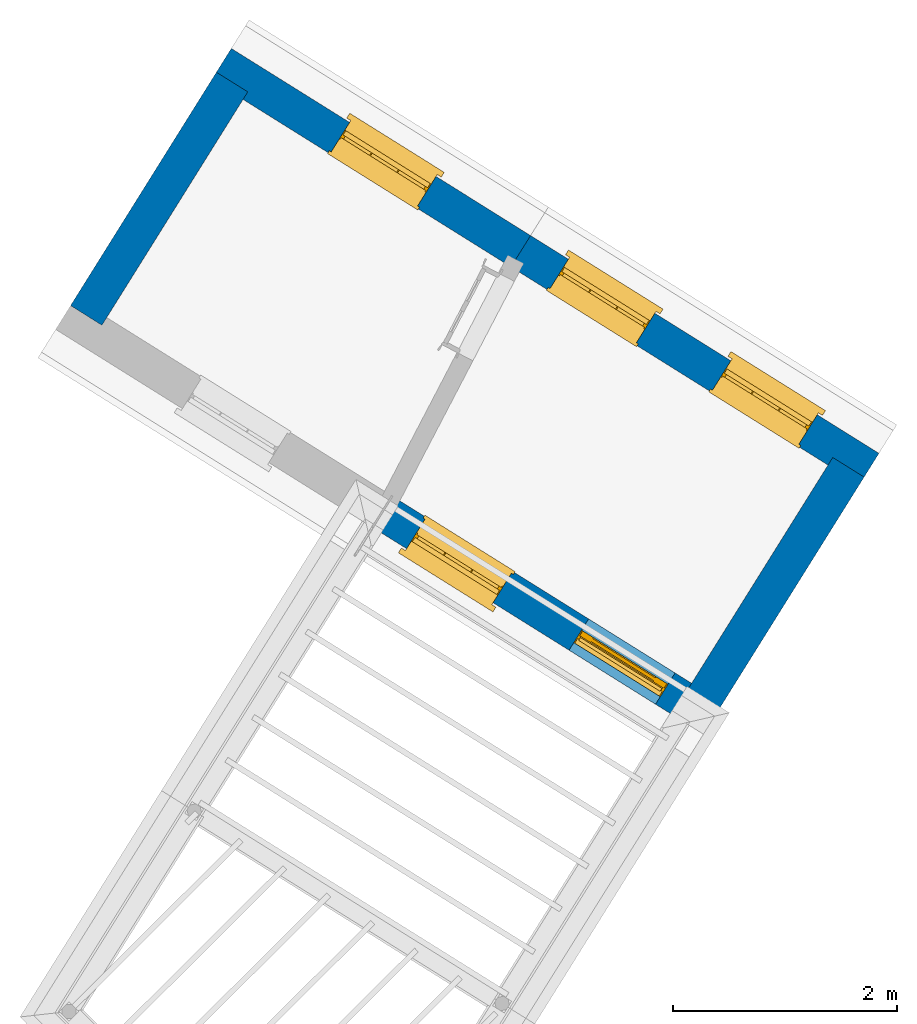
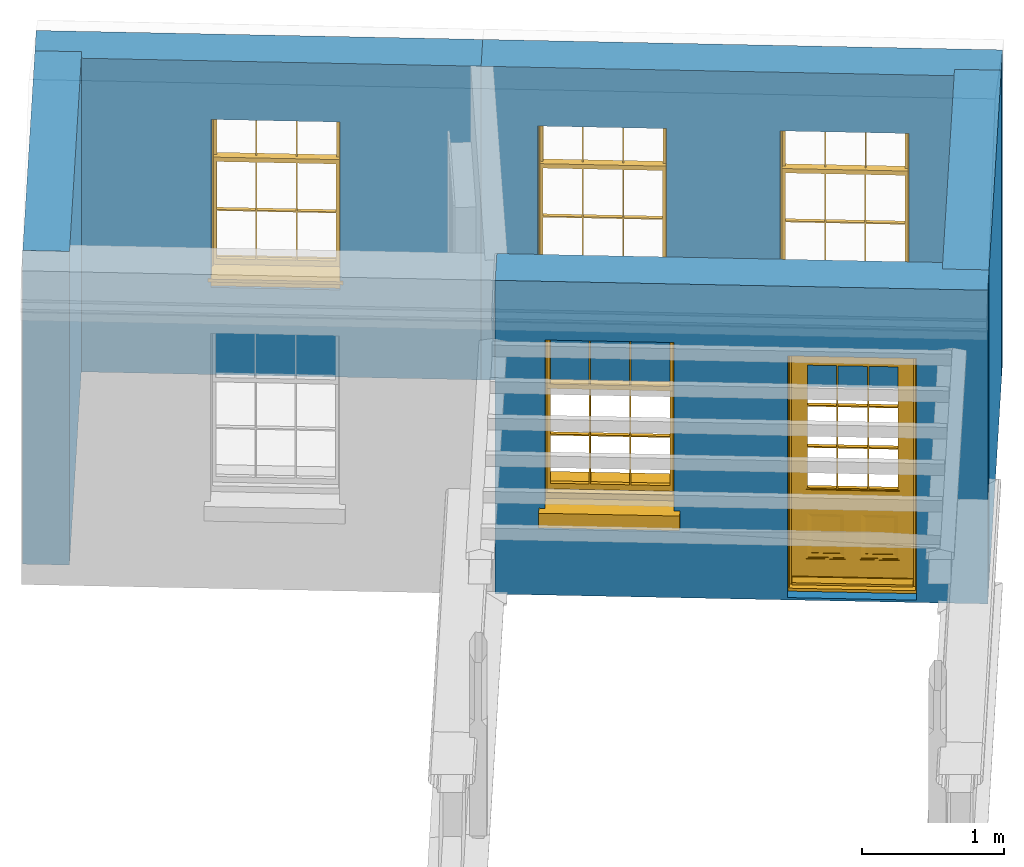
# One storey, part 4 of 5: 5 walls, 4 windows, 1 door, 5 openings.
"""IFC4 building model written with IfcOpenShell, lengths in metres."""

from ifc_helpers import new_model, si_unit, frame, origin, origin_with_axes, place, context, subcontext, project, spatial, polyline, outline, extrude, faceted_brep, source, transform, mapped, material, layer, layer_set, layer_usage, type_object, type_shapes, element, fill, save


model = new_model("IFC4")

# Units and contexts
model_context = context("Model", 3, world=origin_with_axes())
body_context = subcontext(model_context, "Body", "Model", "MODEL_VIEW")
ifc_project = project(units=[si_unit("PLANEANGLEUNIT", "RADIAN"), si_unit("MASSUNIT", "GRAM", prefix="KILO"), si_unit("FORCEUNIT", "NEWTON", prefix="KILO"), si_unit("LENGTHUNIT", "METRE"), si_unit("AREAUNIT", "SQUARE_METRE"), si_unit("VOLUMEUNIT", "CUBIC_METRE")], contexts=[model_context, model_context])

# Sites, building, storey
site_1_placement = place(None, origin_with_axes())
site_1 = spatial("IfcSite", under=ifc_project, at=site_1_placement, Name="Tamar")
site_2_placement = place(site_1_placement, origin_with_axes())
site_2 = spatial("IfcSite", under=site_1, at=site_2_placement, Name="Site plot-3", CompositionType="ELEMENT")
building_placement = place(None, origin_with_axes())
building = spatial("IfcBuilding", under=site_2, at=building_placement, Name="Building plot-3", CompositionType="ELEMENT")
storey_placement = place(None, frame((0.0, 0.0, 30.5), z_axis=(0.0, 0.0, 1.0), x_axis=(1.0, 0.0, 0.0)))
storey = spatial("IfcBuildingStorey", under=building, at=storey_placement, Name="plot-3 2", CompositionType="ELEMENT", Elevation=30.5)

# Wall, openings, door, window
ifc_material_1 = material(Name="Masonry")
ifc_layer_1 = layer(ifc_material_1, 0.33, ventilated=False)
ifc_layer_set_1 = layer_set([ifc_layer_1], Name="exterior_0.08_0.25")
ifc_layer_usage_1 = layer_usage(ifc_layer_set_1, "AXIS2", "POSITIVE", -0.25)
wall_type_1 = type_object("IfcWallType", Name="exterior_0.08_0.25", PredefinedType="SOLIDWALL", material=ifc_layer_set_1)
wall_1_placement = place(storey_placement, frame((216.299124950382, 286.059601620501, 0.0), z_axis=(0.0, 0.0, 1.0), x_axis=(0.847981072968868, -0.530026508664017, 0.0)))
wall_1 = element("IfcWall", 1, at=wall_1_placement, inside=storey, type_object=wall_type_1, material=ifc_layer_usage_1, Name="exterior", context=body_context, shape_type="SweptSolid", body=[
    extrude(outline(polyline([(-4.65550663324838e-12, 0.0799999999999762), (1.46027175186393e-11, -0.249999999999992), (3.47554439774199, -0.249999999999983), (3.47554439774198, 0.0800000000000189), (-4.65550663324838e-12, 0.0799999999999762)])), origin_with_axes(), (0.0, 0.0, 1.0), 2.7),
])
opening_1_placement = place(wall_1_placement, frame((0.351386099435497, 0.0, 0.75)))
opening_1 = element("IfcOpeningElement", 2, at=opening_1_placement, cuts=wall_1, Name="My Opening", ObjectType="Opening", context=body_context, shape_type="SweptSolid", body=[
    extrude(outline(polyline([(0.0, -0.269999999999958), (0.91, -0.269999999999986), (0.90999999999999, 1.09999999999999), (-9.82547376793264e-15, 1.10000000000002), (0.0, -0.269999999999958)])), origin_with_axes(), (0.0, 0.0, 1.0), 1.445),
])
opening_2_placement = place(wall_1_placement, frame((2.06138609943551, 0.0, 0.0199999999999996)))
opening_2 = element("IfcOpeningElement", 3, at=opening_2_placement, cuts=wall_1, Name="My Opening", ObjectType="Opening", context=body_context, shape_type="SweptSolid", body=[
    extrude(outline(polyline([(0.0, -0.269999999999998), (0.909999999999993, -0.269999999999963), (0.909999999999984, 1.10000000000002), (-9.76996261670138e-15, 1.09999999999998), (0.0, -0.269999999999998)])), origin_with_axes(), (0.0, 0.0, 1.0), 2.08),
])
door_type = type_object("IfcDoorType", Name="door_panelled", OperationType="SINGLE_SWING_LEFT", PredefinedType="NOTDEFINED")
shared_shape_1 = source(origin(), body_context, "Body", "Brep", [
    faceted_brep([(0.545, 0.195, 0.265), (0.745, 0.195, 0.265), (0.745, 0.2, 0.265), (0.545, 0.2, 0.265), (0.745, 0.2, 0.58), (0.545, 0.2, 0.58), (0.545, 0.195, 0.58), (0.515, 0.19, 0.235), (0.775, 0.19, 0.235), (0.745, 0.195, 0.58), (0.515, 0.19, 0.61), (0.515, 0.185, 0.235), (0.775, 0.185, 0.235), (0.775, 0.19, 0.61), (0.515, 0.185, 0.61), (0.785, 0.185, 0.225), (0.505, 0.185, 0.225), (0.775, 0.185, 0.61), (0.505, 0.185, 0.62), (0.785, 0.185, 0.62), (0.505, 0.18, 0.225), (0.785, 0.18, 0.225), (0.505, 0.18, 0.62), (0.785, 0.18, 0.62), (0.883, 0.18, 0.075), (0.898, 0.18, 0.075), (0.405, 0.18, 0.62), (0.405, 0.18, 0.225), (0.027, 0.18, 0.075), (0.785, 0.18, 0.82), (0.125, 0.18, 0.82), (0.405, 0.185, 0.62), (0.405, 0.185, 0.225), (0.898, 0.18, 2.068), (0.027, 0.17, 0.075), (0.883, 0.17, 0.075), (0.125, 0.18, 0.225), (0.012, 0.18, 0.075), (0.785, 0.19, 0.82), (0.125, 0.19, 0.82), (0.125, 0.18, 0.62), (0.125, 0.185, 0.62), (0.395, 0.185, 0.61), (0.395, 0.185, 0.235), (0.125, 0.185, 0.225), (0.785, 0.18, 1.895), (0.027, 0.14, 0.045), (0.883, 0.14, 0.045), (0.558333, 0.19, 0.83), (0.351667, 0.19, 0.83), (0.125, 0.18, 1.895), (0.125, 0.19, 1.895), (0.785, 0.19, 1.895), (0.012, 0.18, 2.068), (0.135, 0.185, 0.61), (0.395, 0.19, 0.61), (0.395, 0.19, 0.235), (0.135, 0.185, 0.235), (0.027, 0.14, 0.027), (0.883, 0.14, 0.027), (0.568333, 0.19, 0.83), (0.558333, 0.22, 0.83), (0.351667, 0.22, 0.83), (0.341667, 0.19, 0.83), (0.135, 0.19, 1.185), (0.135, 0.19, 1.53), (0.775, 0.19, 1.53), (0.775, 0.19, 1.185), (0.135, 0.19, 0.61), (0.365, 0.195, 0.58), (0.365, 0.195, 0.265), (0.135, 0.19, 0.235), (0.568333, 0.19, 1.175), (0.558333, 0.19, 1.175), (0.775, 0.19, 0.83), (0.558333, 0.22, 1.175), (0.785, 0.22, 0.82), (0.125, 0.22, 0.82), (0.351667, 0.22, 1.175), (0.351667, 0.19, 1.175), (0.341667, 0.19, 1.175), (0.135, 0.19, 0.83), (0.135, 0.19, 1.175), (0.135, 0.22, 1.185), (0.135, 0.22, 1.53), (0.135, 0.19, 1.54), (0.351667, 0.19, 1.885), (0.558333, 0.19, 1.885), (0.775, 0.22, 1.53), (0.775, 0.22, 1.185), (0.775, 0.19, 1.175), (0.775, 0.19, 1.54), (0.165, 0.195, 0.58), (0.365, 0.2, 0.58), (0.365, 0.2, 0.265), (0.165, 0.195, 0.265), (0.568333, 0.22, 0.83), (0.568333, 0.22, 1.175), (0.568333, 0.19, 1.185), (0.558333, 0.19, 1.185), (0.775, 0.22, 0.83), (0.785, 0.23, 0.82), (0.125, 0.23, 0.82), (0.341667, 0.22, 0.83), (0.341667, 0.22, 1.175), (0.351667, 0.19, 1.185), (0.341667, 0.19, 1.185), (0.135, 0.22, 0.83), (0.341667, 0.22, 1.185), (0.125, 0.22, 1.895), (0.341667, 0.22, 1.53), (0.341667, 0.19, 1.53), (0.135, 0.19, 1.885), (0.341667, 0.19, 1.54), (0.341667, 0.19, 1.885), (0.558333, 0.22, 1.885), (0.351667, 0.22, 1.885), (0.568333, 0.19, 1.885), (0.785, 0.22, 1.895), (0.568333, 0.22, 1.185), (0.568333, 0.19, 1.53), (0.568333, 0.22, 1.53), (0.568333, 0.19, 1.54), (0.775, 0.19, 1.885), (0.165, 0.2, 0.58), (0.165, 0.2, 0.265), (0.775, 0.22, 1.175), (0.558333, 0.19, 1.53), (0.351667, 0.22, 1.185), (0.558333, 0.22, 1.185), (0.505, 0.23, 0.62), (0.405, 0.23, 0.62), (0.125, 0.23, 1.895), (0.785, 0.23, 1.895), (0.351667, 0.19, 1.53), (0.135, 0.22, 1.175), (0.135, 0.22, 1.54), (0.341667, 0.22, 1.54), (0.135, 0.22, 1.885), (0.351667, 0.19, 1.54), (0.558333, 0.22, 1.54), (0.558333, 0.19, 1.54), (0.351667, 0.22, 1.54), (0.775, 0.22, 1.54), (0.568333, 0.22, 1.54), (0.775, 0.22, 1.885), (0.558333, 0.22, 1.53), (0.405, 0.23, 0.225), (0.505, 0.23, 0.225), (0.125, 0.23, 0.62), (0.785, 0.23, 0.62), (0.012, 0.23, 2.068), (0.898, 0.23, 2.068), (0.351667, 0.22, 1.53), (0.341667, 0.22, 1.885), (0.568333, 0.22, 1.885), (0.405, 0.225, 0.225), (0.405, 0.225, 0.62), (0.505, 0.225, 0.62), (0.505, 0.225, 0.225), (0.898, 0.23, 0.027), (0.012, 0.23, 0.027), (0.125, 0.225, 0.62), (0.785, 0.225, 0.62), (0.395, 0.225, 0.235), (0.395, 0.225, 0.61), (0.125, 0.23, 0.225), (0.125, 0.225, 0.225), (0.515, 0.225, 0.61), (0.515, 0.225, 0.235), (0.785, 0.23, 0.225), (0.785, 0.225, 0.225), (0.135, 0.225, 0.61), (0.775, 0.225, 0.61), (0.135, 0.225, 0.235), (0.395, 0.22, 0.235), (0.395, 0.22, 0.61), (0.515, 0.22, 0.61), (0.515, 0.22, 0.235), (0.775, 0.225, 0.235), (0.135, 0.22, 0.61), (0.775, 0.22, 0.61), (0.135, 0.22, 0.235), (0.365, 0.215, 0.265), (0.365, 0.215, 0.58), (0.545, 0.215, 0.58), (0.545, 0.215, 0.265), (0.775, 0.22, 0.235), (0.165, 0.215, 0.58), (0.745, 0.215, 0.58), (0.165, 0.215, 0.265), (0.365, 0.21, 0.58), (0.365, 0.21, 0.265), (0.545, 0.21, 0.58), (0.545, 0.21, 0.265), (0.745, 0.215, 0.265), (0.165, 0.21, 0.58), (0.745, 0.21, 0.58), (0.165, 0.21, 0.265), (0.745, 0.21, 0.265), (0.885, 0.178, 0.025), (0.025, 0.178, 0.025), (0.025, 0.15, 0.025), (0.885, 0.15, 0.025), (0.9, 0.23, 0.025), (0.01, 0.23, 0.025), (0.9, 0.178, 0.025), (0.91, 0.23, 0.0), (0.0, 0.23, 0.0), (0.01, 0.178, 0.025), (0.9, 0.178, 2.07), (0.9, 0.23, 2.07), (0.885, 0.178, 2.055), (0.91, 0.23, 2.08), (0.01, 0.23, 2.07), (0.0, 0.23, 2.08), (0.01, 0.178, 2.07), (0.025, 0.178, 2.055), (0.0, 0.1, 2.08), (0.91, 0.1, 2.08), (0.01, 0.1, 2.07), (0.9, 0.1, 2.07), (0.01, 0.15, 2.07), (0.9, 0.15, 2.07), (0.0, 0.1, 0.0), (0.91, 0.1, 0.0), (0.01, 0.1, 0.025), (0.9, 0.1, 0.025), (0.01, 0.15, 0.025), (0.025, 0.15, 2.055), (0.9, 0.15, 0.025), (0.885, 0.15, 2.055), (0.898, 0.18, 0.027), (0.012, 0.18, 0.027), (0.883, 0.18, 0.027), (0.027, 0.18, 0.027)], [[[0, 1, 2, 3]], [[2, 4, 5, 3]], [[0, 3, 5, 6]], [[1, 0, 7, 8]], [[9, 4, 2, 1]], [[9, 6, 5, 4]], [[0, 6, 10, 7]], [[8, 7, 11, 12]], [[8, 13, 9, 1]], [[13, 10, 6, 9]], [[7, 10, 14, 11]], [[15, 12, 11, 16]], [[12, 17, 13, 8]], [[17, 14, 10, 13]], [[18, 16, 11, 14]], [[15, 19, 17, 12]], [[15, 16, 20, 21]], [[14, 17, 19, 18]], [[16, 18, 22, 20]], [[21, 23, 19, 15]], [[24, 25, 21, 20]], [[23, 22, 18, 19]], [[20, 22, 26, 27]], [[23, 21, 25]], [[28, 24, 20, 27]], [[22, 23, 29]], [[29, 30, 26, 22]], [[27, 26, 31, 32]], [[23, 25, 33, 29]], [[34, 35, 24, 28]], [[28, 27, 36, 37]], [[38, 39, 30, 29]], [[26, 30, 40]], [[26, 40, 41, 31]], [[42, 43, 32, 31]], [[32, 44, 36, 27]], [[33, 45, 29]], [[46, 47, 35, 34]], [[36, 40, 37]], [[39, 38, 48, 49]], [[50, 30, 39, 51]], [[29, 45, 52, 38]], [[53, 37, 40, 30]], [[44, 41, 40, 36]], [[31, 41, 54, 42]], [[43, 42, 55, 56]], [[57, 44, 32, 43]], [[50, 45, 33, 53]], [[47, 46, 58, 59]], [[60, 48, 38]], [[49, 48, 61, 62]], [[49, 63, 39]], [[50, 53, 30]], [[51, 39, 64, 65]], [[45, 50, 51, 52]], [[66, 67, 38, 52]], [[57, 54, 41, 44]], [[42, 54, 68, 55]], [[56, 55, 69, 70]], [[56, 71, 57, 43]], [[60, 72, 73, 48]], [[60, 38, 74]], [[48, 73, 75, 61]], [[76, 77, 62, 61]], [[62, 78, 79, 49]], [[49, 79, 80, 63]], [[63, 81, 39]], [[82, 64, 39]], [[65, 64, 83, 84]], [[85, 51, 65]], [[52, 51, 86, 87]], [[88, 89, 67, 66]], [[90, 38, 67]], [[91, 66, 52]], [[71, 68, 54, 57]], [[55, 68, 92, 69]], [[69, 93, 94, 70]], [[70, 95, 71, 56]], [[96, 97, 72, 60]], [[73, 72, 98, 99]], [[74, 38, 90]], [[100, 96, 60, 74]], [[75, 73, 79, 78]], [[61, 75, 97, 96]], [[101, 102, 77, 76]], [[77, 103, 62]], [[96, 76, 61]], [[103, 104, 78, 62]], [[80, 79, 105, 106]], [[63, 80, 104, 103]], [[81, 63, 103, 107]], [[81, 82, 39]], [[106, 64, 82, 80]], [[106, 108, 83, 64]], [[84, 83, 77, 109]], [[110, 111, 65, 84]], [[112, 51, 85]], [[113, 85, 65, 111]], [[114, 86, 51]], [[115, 87, 86, 116]], [[117, 52, 87]], [[118, 76, 89, 88]], [[119, 98, 67, 89]], [[120, 121, 88, 66]], [[67, 98, 72, 90]], [[91, 122, 120, 66]], [[91, 52, 123]], [[95, 92, 68, 71]], [[69, 92, 124, 93]], [[94, 93, 124, 125]], [[94, 125, 95, 70]], [[72, 97, 126, 90]], [[127, 99, 98, 120]], [[99, 105, 79, 73]], [[74, 90, 126, 100]], [[96, 100, 76]], [[128, 129, 75, 78]], [[97, 75, 129, 119]], [[130, 131, 102, 101]], [[109, 77, 102, 132]], [[133, 101, 76, 118]], [[77, 107, 103]], [[78, 104, 108, 128]], [[111, 106, 105, 134]], [[104, 80, 82, 135]], [[107, 135, 82, 81]], [[110, 108, 106, 111]], [[104, 135, 83, 108]], [[83, 135, 77]], [[136, 84, 109]], [[110, 84, 136, 137]], [[114, 51, 112]], [[85, 136, 138, 112]], [[113, 137, 136, 85]], [[111, 134, 139, 113]], [[86, 114, 113, 139]], [[140, 141, 87, 115]], [[139, 142, 116, 86]], [[109, 118, 115, 116]], [[117, 123, 52]], [[117, 87, 141, 122]], [[126, 89, 76]], [[143, 118, 88]], [[120, 98, 119, 121]], [[119, 89, 126, 97]], [[144, 143, 88, 121]], [[144, 122, 91, 143]], [[127, 120, 122, 141]], [[143, 91, 123, 145]], [[124, 92, 95, 125]], [[146, 129, 99, 127]], [[99, 129, 128, 105]], [[100, 126, 76]], [[121, 119, 129, 146]], [[147, 131, 130, 148]], [[131, 149, 102]], [[130, 101, 150]], [[102, 151, 132]], [[118, 109, 132, 133]], [[101, 133, 152]], [[107, 77, 135]], [[153, 128, 108, 110]], [[134, 105, 128, 153]], [[109, 138, 136]], [[153, 110, 137, 142]], [[154, 114, 112, 138]], [[137, 113, 114, 154]], [[141, 139, 134, 127]], [[141, 140, 142, 139]], [[144, 140, 115, 155]], [[142, 137, 154, 116]], [[155, 115, 118]], [[116, 154, 109]], [[117, 155, 145, 123]], [[122, 144, 155, 117]], [[143, 145, 118]], [[121, 146, 140, 144]], [[146, 127, 134, 153]], [[156, 157, 131, 147]], [[148, 130, 158, 159]], [[148, 160, 161, 147]], [[157, 162, 149, 131]], [[161, 151, 102, 149]], [[101, 152, 160, 150]], [[163, 158, 130, 150]], [[151, 152, 133, 132]], [[154, 138, 109]], [[142, 140, 146, 153]], [[145, 155, 118]], [[157, 156, 164, 165]], [[147, 166, 167, 156]], [[168, 169, 159, 158]], [[170, 148, 159, 171]], [[148, 170, 160]], [[166, 147, 161]], [[172, 162, 157, 165]], [[166, 149, 162, 167]], [[166, 161, 149]], [[150, 160, 170]], [[163, 173, 168, 158]], [[171, 163, 150, 170]], [[174, 164, 156, 167]], [[175, 176, 165, 164]], [[169, 168, 177, 178]], [[171, 159, 169, 179]], [[167, 162, 172, 174]], [[176, 180, 172, 165]], [[179, 173, 163, 171]], [[181, 177, 168, 173]], [[164, 174, 182, 175]], [[183, 184, 176, 175]], [[178, 177, 185, 186]], [[179, 169, 178, 187]], [[174, 172, 180, 182]], [[184, 188, 180, 176]], [[187, 181, 173, 179]], [[189, 185, 177, 181]], [[175, 182, 190, 183]], [[191, 184, 183, 192]], [[185, 193, 194, 186]], [[187, 178, 186, 195]], [[182, 180, 188, 190]], [[191, 196, 188, 184]], [[195, 189, 181, 187]], [[197, 193, 185, 189]], [[183, 190, 198, 192]], [[198, 196, 191, 192]], [[194, 193, 197, 199]], [[195, 186, 194, 199]], [[188, 196, 198, 190]], [[197, 189, 195, 199]], [[200, 201, 202, 203]], [[201, 200, 204, 205]], [[206, 204, 200]], [[204, 207, 208, 205]], [[209, 201, 205]], [[210, 211, 204, 206]], [[206, 200, 212, 210]], [[211, 213, 207, 204]], [[214, 205, 208, 215]], [[216, 217, 201, 209]], [[205, 214, 216, 209]], [[216, 214, 211, 210]], [[210, 212, 217, 216]], [[214, 215, 213, 211]], [[218, 219, 213, 215]], [[219, 218, 220, 221]], [[221, 220, 222, 223]], [[215, 208, 224, 218]], [[225, 224, 208, 207]], [[224, 226, 220, 218]], [[224, 225, 227, 226]], [[219, 225, 207, 213]], [[228, 222, 220, 226]], [[219, 221, 227, 225]], [[226, 227, 203, 202]], [[202, 229, 222, 228]], [[228, 226, 202]], [[227, 221, 223, 230]], [[230, 203, 227]], [[217, 229, 202, 201]], [[231, 223, 222, 229]], [[230, 223, 231, 203]], [[231, 229, 217, 212]], [[212, 200, 203, 231]], [[33, 152, 151, 53]], [[25, 160, 152, 33]], [[161, 37, 53, 151]], [[232, 160, 25]], [[161, 233, 37]], [[160, 232, 234]], [[24, 234, 232, 25]], [[233, 161, 235]], [[37, 233, 235, 28]], [[161, 160, 234, 235]], [[35, 47, 234, 24]], [[28, 235, 46, 34]], [[58, 235, 234, 59]], [[59, 234, 47]], [[58, 46, 235]]]),
])
type_shapes(door_type, [shared_shape_1])
door_placement = place(storey_placement, frame((217.904034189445, 284.738057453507, 0.0199999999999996), z_axis=(0.0, 0.0, 1.0), x_axis=(0.771662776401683, -0.482324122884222, 0.0)))
door = element("IfcDoor", 4, at=door_placement, inside=storey, type_object=door_type, Name="circulation sahn door", OverallHeight=2.08, OverallWidth=0.91, context=body_context, shape_type="MappedRepresentation", body=[
    mapped(shared_shape_1, transform((0.0, 0.0, 0.0), scale=1.0)),
])
fill(opening_2, door)
window_type = type_object("IfcWindowType", Name="sash_shorter", PartitioningType="DOUBLE_PANEL_HORIZONTAL", PredefinedType="NOTDEFINED")
shared_shape_2 = source(origin(), body_context, "Body", "Brep", [
    faceted_brep([(0.876875, 0.145, 0.999097), (0.876875, 0.145, 1.411875), (0.9, 0.145, 1.435), (0.033125, 0.145, 1.411875), (0.033125, 0.145, 0.999097), (0.01, 0.145, 1.435), (0.033125, 0.115, 1.411875), (0.01, 0.115, 1.435), (0.033125, 0.115, 0.999097), (0.876875, 0.115, 1.411875), (0.876875, 0.115, 0.999097), (0.9, 0.115, 1.435), (0.033125, 0.145, 0.960972), (0.01, 0.145, 0.960972), (0.033125, 0.145, 0.548195), (0.876875, 0.145, 0.960972), (0.876875, 0.145, 0.548195), (0.9, 0.145, 0.960972), (0.876875, 0.145, 0.538195), (0.876875, 0.145, 0.125417), (0.9, 0.145, 0.077167), (0.033125, 0.145, 0.125417), (0.033125, 0.145, 0.538195), (0.01, 0.145, 0.077167), (0.9, 0.115, 0.960972), (0.01, 0.115, 0.960972), (-0.0425, 0.0, 0.01), (-0.0425, -0.05, 0.001667), (0.0, 0.0, 0.01), (0.9525, 0.0, 0.01), (0.91, 0.0, 0.01), (0.9525, -0.05, 0.001667), (-0.02, 0.33, 0.077167), (0.0, 0.33, 0.077167), (-0.02, 0.36, 0.077167), (0.0, 0.19, 0.077167), (0.01, 0.19, 0.077167), (0.91, 0.19, 0.077167), (0.91, 0.33, 0.077167), (0.9, 0.19, 0.077167), (0.93, 0.33, 0.077167), (0.93, 0.36, 0.077167), (0.01, 0.145, 0.999097), (0.01, 0.175, 0.999097), (0.9, 0.145, 0.999097), (0.9, 0.175, 0.999097), (0.876875, 0.175, 0.125417), (0.876875, 0.175, 0.538195), (0.9, 0.175, 0.077167), (0.876875, 0.175, 0.548195), (0.876875, 0.175, 0.960972), (0.033125, 0.175, 0.125417), (0.01, 0.175, 0.077167), (0.033125, 0.175, 0.538195), (0.033125, 0.175, 0.960972), (0.033125, 0.175, 0.548195), (-0.02, 0.33, 0.052167), (-0.02, 0.36, 0.052167), (0.93, 0.36, 0.052167), (0.93, 0.33, 0.052167), (0.91, 0.33, 0.052167), (0.0, 0.33, 0.052167), (0.91, 0.1, 0.026667), (0.0, 0.1, 0.026667), (-0.0425, -0.05, -0.123333), (0.9525, -0.05, -0.123333), (-0.0425, 0.0, -0.123333), (0.9525, 0.0, -0.123333), (0.01, 0.19, 1.435), (0.9, 0.19, 1.435), (0.0, 0.19, 1.445), (0.91, 0.19, 1.445), (0.01, 0.1, 0.077167), (0.9, 0.1, 0.077167), (0.592292, 0.145, 0.125417), (0.592292, 0.175, 0.125417), (0.317708, 0.175, 0.125417), (0.317708, 0.145, 0.125417), (0.592292, 0.145, 0.548195), (0.317708, 0.145, 0.548195), (0.317708, 0.145, 0.538195), (0.592292, 0.145, 0.538195), (0.592292, 0.175, 0.548195), (0.317708, 0.175, 0.548195), (0.602292, 0.175, 0.548195), (0.602292, 0.145, 0.548195), (0.317708, 0.175, 0.538195), (0.307708, 0.175, 0.125417), (0.307708, 0.175, 0.538195), (0.602292, 0.175, 0.538195), (0.602292, 0.175, 0.125417), (0.592292, 0.175, 0.538195), (0.307708, 0.175, 0.548195), (0.317708, 0.175, 0.960972), (0.307708, 0.175, 0.960972), (0.602292, 0.175, 0.960972), (0.592292, 0.175, 0.960972), (0.307708, 0.145, 0.538195), (0.307708, 0.145, 0.125417), (0.307708, 0.145, 0.548195), (0.307708, 0.145, 0.960972), (0.592292, 0.145, 0.960972), (0.317708, 0.145, 0.960972), (0.602292, 0.145, 0.960972), (0.602292, 0.145, 0.538195), (0.602292, 0.145, 0.125417), (0.317708, 0.115, 1.411875), (0.307708, 0.115, 1.411875), (0.307708, 0.115, 0.999097), (0.317708, 0.115, 0.999097), (0.602292, 0.115, 1.411875), (0.592292, 0.115, 1.411875), (0.592292, 0.115, 0.999097), (0.602292, 0.115, 0.999097), (0.317708, 0.145, 0.999097), (0.307708, 0.145, 0.999097), (0.307708, 0.145, 1.411875), (0.317708, 0.145, 1.411875), (0.602292, 0.145, 0.999097), (0.592292, 0.145, 0.999097), (0.592292, 0.145, 1.411875), (0.602292, 0.145, 1.411875), (0.91, 0.1, 1.445), (0.9, 0.1, 1.435), (0.01, 0.1, 1.435), (0.0, 0.1, 1.445), (0.91, 0.0, 0.0), (0.0, 0.0, 0.0), (0.91, 0.33, 0.0), (0.0, 0.33, 0.0)], [[[0, 1, 2]], [[3, 4, 5]], [[6, 7, 8]], [[9, 10, 11]], [[12, 13, 14]], [[15, 16, 17]], [[18, 19, 20]], [[21, 22, 23]], [[24, 15, 17]], [[13, 12, 25]], [[26, 27, 28]], [[29, 30, 31]], [[32, 33, 34]], [[35, 36, 33]], [[37, 38, 39]], [[40, 41, 38]], [[42, 4, 43]], [[44, 45, 0]], [[46, 47, 48]], [[49, 50, 45]], [[51, 52, 53]], [[54, 55, 43]], [[38, 33, 36, 39]], [[41, 34, 33, 38]], [[56, 32, 34, 57]], [[57, 34, 41, 58]], [[58, 41, 40, 59]], [[57, 58, 60, 61]], [[52, 48, 39, 36]], [[62, 63, 28, 30]], [[27, 31, 30, 28]], [[27, 64, 65, 31]], [[66, 67, 65, 64]], [[2, 5, 68, 69]], [[68, 70, 71, 69]], [[20, 23, 72, 73]], [[73, 72, 63, 62]], [[74, 75, 76, 77]], [[78, 79, 80, 81]], [[78, 82, 83, 79]], [[16, 49, 84, 85]], [[86, 76, 87, 88]], [[89, 90, 75, 91]], [[92, 88, 53, 55]], [[82, 91, 86, 83]], [[93, 83, 92, 94]], [[95, 84, 82, 96]], [[89, 84, 49, 47]], [[97, 88, 87, 98]], [[22, 53, 88, 97]], [[81, 91, 75, 74]], [[80, 86, 91, 81]], [[77, 76, 86, 80]], [[99, 92, 55, 14]], [[100, 94, 92, 99]], [[101, 96, 82, 78]], [[79, 83, 93, 102]], [[85, 84, 95, 103]], [[104, 89, 47, 18]], [[105, 90, 89, 104]], [[104, 18, 16, 85]], [[80, 97, 98, 77]], [[104, 81, 74, 105]], [[103, 101, 78, 85]], [[99, 14, 22, 97]], [[102, 100, 99, 79]], [[106, 107, 108, 109]], [[110, 111, 112, 113]], [[114, 115, 116, 117]], [[118, 119, 120, 121]], [[107, 116, 115, 108]], [[111, 120, 119, 112]], [[109, 114, 117, 106]], [[113, 118, 121, 110]], [[85, 78, 81, 104]], [[84, 89, 91, 82]], [[83, 86, 88, 92]], [[79, 99, 97, 80]], [[109, 112, 119, 114]], [[102, 93, 96, 101]], [[106, 117, 120, 111]], [[98, 87, 51, 21]], [[6, 3, 116, 107]], [[110, 121, 1, 9]], [[19, 46, 90, 105]], [[26, 66, 64, 27]], [[29, 31, 65, 67]], [[25, 24, 112, 109]], [[11, 7, 106, 111]], [[75, 48, 52, 76]], [[43, 45, 96, 93]], [[45, 43, 114, 119]], [[5, 2, 120, 117]], [[24, 25, 102, 101]], [[42, 5, 4]], [[2, 44, 0]], [[49, 45, 48, 47]], [[52, 43, 55, 53]], [[14, 13, 23, 22]], [[20, 17, 16, 18]], [[24, 11, 10]], [[25, 8, 7]], [[8, 4, 3, 6]], [[9, 1, 0, 10]], [[15, 50, 49, 16]], [[18, 47, 46, 19]], [[21, 51, 53, 22]], [[14, 55, 54, 12]], [[44, 2, 69, 45]], [[68, 5, 42, 43]], [[36, 35, 70, 68]], [[39, 69, 71, 37]], [[62, 122, 123, 73]], [[63, 72, 124, 125]], [[8, 108, 115, 4]], [[113, 10, 0, 118]], [[94, 100, 12, 54]], [[17, 20, 73, 24]], [[72, 23, 13, 25]], [[52, 36, 68, 43]], [[69, 39, 48, 45]], [[11, 24, 73, 123]], [[7, 124, 72, 25]], [[23, 77, 98]], [[98, 21, 23]], [[105, 74, 20]], [[20, 19, 105]], [[20, 74, 77, 23]], [[113, 112, 24]], [[24, 10, 113]], [[25, 109, 108]], [[108, 8, 25]], [[110, 9, 11]], [[11, 111, 110]], [[7, 6, 107]], [[107, 106, 7]], [[5, 117, 116]], [[116, 3, 5]], [[121, 120, 2]], [[2, 1, 121]], [[11, 123, 124, 7]], [[122, 125, 124, 123]], [[43, 93, 94]], [[94, 54, 43]], [[96, 45, 95]], [[50, 95, 45]], [[15, 103, 95, 50]], [[48, 75, 90]], [[90, 46, 48]], [[87, 76, 52]], [[52, 51, 87]], [[103, 15, 24]], [[24, 101, 103]], [[100, 102, 25]], [[25, 12, 100]], [[115, 114, 43]], [[43, 4, 115]], [[118, 0, 45]], [[45, 119, 118]], [[71, 70, 125, 122]], [[70, 35, 63, 125]], [[122, 62, 37, 71]], [[126, 67, 66, 127]], [[60, 58, 59]], [[38, 60, 59, 40]], [[61, 56, 57]], [[32, 56, 61, 33]], [[61, 60, 128, 129]], [[62, 60, 38, 37]], [[126, 128, 60, 62]], [[33, 61, 63, 35]], [[61, 129, 127, 63]], [[128, 126, 127, 129]], [[28, 127, 66, 26]], [[63, 127, 28]], [[29, 67, 126, 30]], [[30, 126, 62]]]),
])
type_shapes(window_type, [shared_shape_2])
window_1_placement = place(storey_placement, frame((216.453986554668, 285.644402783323, 0.75), z_axis=(0.0, 0.0, 1.0), x_axis=(0.771662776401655, -0.482324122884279, 0.0)))
window_1 = element("IfcWindow", 5, at=window_1_placement, inside=storey, type_object=window_type, Name="circulation sahn window", OverallHeight=1.445, OverallWidth=0.91, context=body_context, shape_type="MappedRepresentation", body=[
    mapped(shared_shape_2, transform((0.0, 0.0, 0.0), scale=1.0)),
])
fill(opening_1, window_1)

# Wall, openings, windows
wall_2_placement = place(storey_placement, frame((220.336316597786, 286.433012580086, 0.0), z_axis=(0.0, 0.0, 1.0), x_axis=(-0.847981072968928, 0.53002650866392, 0.0)))
wall_2 = element("IfcWall", 6, at=wall_2_placement, inside=storey, type_object=wall_type_1, material=ifc_layer_usage_1, Name="exterior", context=body_context, shape_type="SweptSolid", body=[
    extrude(outline(polyline([(-0.249999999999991, 0.0800000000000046), (-0.249999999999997, -0.249999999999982), (3.41702773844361, -0.24999999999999), (3.41702773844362, 0.0799999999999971), (-0.249999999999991, 0.0800000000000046)])), origin_with_axes(), (0.0, 0.0, 1.0), 2.7),
])
opening_3_placement = place(wall_2_placement, frame((0.399256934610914, 0.0, 0.75)))
opening_3 = element("IfcOpeningElement", 7, at=opening_3_placement, cuts=wall_2, Name="My Opening", ObjectType="Opening", context=body_context, shape_type="SweptSolid", body=[
    extrude(outline(polyline([(0.0, -0.269999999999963), (0.909999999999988, -0.269999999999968), (0.910000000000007, 1.1), (2.00950367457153e-14, 1.10000000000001), (0.0, -0.269999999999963)])), origin_with_axes(), (0.0, 0.0, 1.0), 1.445),
])
opening_4_placement = place(wall_2_placement, frame((2.1092569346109, 0.0, 0.75)))
opening_4 = element("IfcOpeningElement", 8, at=opening_4_placement, cuts=wall_2, Name="My Opening", ObjectType="Opening", context=body_context, shape_type="SweptSolid", body=[
    extrude(outline(polyline([(0.0, -0.269999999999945), (0.909999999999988, -0.26999999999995), (0.910000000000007, 1.10000000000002), (1.95399252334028e-14, 1.10000000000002), (0.0, -0.269999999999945)])), origin_with_axes(), (0.0, 0.0, 1.0), 1.445),
])
window_2_placement = place(storey_placement, frame((220.140861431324, 286.873584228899, 0.75), z_axis=(0.0, 0.0, 1.0), x_axis=(-0.771662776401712, 0.482324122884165, 0.0)))
window_2 = element("IfcWindow", 9, at=window_2_placement, inside=storey, type_object=window_type, Name="circulation outside window", OverallHeight=1.445, OverallWidth=0.91, context=body_context, shape_type="MappedRepresentation", body=[
    mapped(shared_shape_2, transform((0.0, 0.0, 0.0), scale=1.0)),
])
fill(opening_3, window_2)
window_3_placement = place(storey_placement, frame((218.690813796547, 287.779929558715, 0.75), z_axis=(0.0, 0.0, 1.0), x_axis=(-0.771662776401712, 0.482324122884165, 0.0)))
window_3 = element("IfcWindow", 10, at=window_3_placement, inside=storey, type_object=window_type, Name="circulation outside window", OverallHeight=1.445, OverallWidth=0.91, context=body_context, shape_type="MappedRepresentation", body=[
    mapped(shared_shape_2, transform((0.0, 0.0, 0.0), scale=1.0)),
])
fill(opening_4, window_3)

# Wall, opening, window
wall_3_placement = place(storey_placement, frame((217.438741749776, 288.244127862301, 0.0), z_axis=(0.0, 0.0, 1.0), x_axis=(-0.847981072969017, 0.530026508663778, 0.0)))
wall_3 = element("IfcWall", 11, at=wall_3_placement, inside=storey, type_object=wall_type_1, material=ifc_layer_usage_1, Name="exterior", context=body_context, shape_type="SweptSolid", body=[
    extrude(outline(polyline([(1.258150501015e-14, 0.0799999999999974), (-4.90565496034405e-14, -0.24999999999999), (3.15049325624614, -0.250000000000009), (3.15049325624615, 0.0800000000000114), (1.258150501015e-14, 0.0799999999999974)])), origin_with_axes(), (0.0, 0.0, 1.0), 2.7),
])
opening_5_placement = place(wall_3_placement, frame((0.99524662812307, 0.0, 0.75)))
opening_5 = element("IfcOpeningElement", 12, at=opening_5_placement, cuts=wall_3, Name="My Opening", ObjectType="Opening", context=body_context, shape_type="SweptSolid", body=[
    extrude(outline(polyline([(0.0, -0.270000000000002), (0.910000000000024, -0.270000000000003), (0.910000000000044, 1.09999999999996), (2.03170813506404e-14, 1.09999999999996), (0.0, -0.270000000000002)])), origin_with_axes(), (0.0, 0.0, 1.0), 1.445),
])
window_4_placement = place(storey_placement, frame((216.737898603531, 289.000589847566, 0.75), z_axis=(0.0, 0.0, 1.0), x_axis=(-0.771662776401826, 0.482324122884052, 0.0)))
window_4 = element("IfcWindow", 13, at=window_4_placement, inside=storey, type_object=window_type, Name="bedroom outside window", OverallHeight=1.445, OverallWidth=0.91, context=body_context, shape_type="MappedRepresentation", body=[
    mapped(shared_shape_2, transform((0.0, 0.0, 0.0), scale=1.0)),
])
fill(opening_5, window_4)

# Walls
ifc_material_2 = material(Name="Masonry")
ifc_layer_2 = layer(ifc_material_2, 0.33, ventilated=False)
ifc_layer_set_2 = layer_set([ifc_layer_2], Name="party_0.08_0.25")
ifc_layer_usage_2 = layer_usage(ifc_layer_set_2, "AXIS2", "POSITIVE", -0.25)
wall_type_2 = type_object("IfcWallType", Name="party_0.08_0.25", PredefinedType="SOLIDWALL", material=ifc_layer_set_2)
wall_4_placement = place(storey_placement, frame((214.979178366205, 289.781466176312, 0.0), z_axis=(0.0, 0.0, 1.0), x_axis=(-0.5300265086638, -0.847981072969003, 0.0)))
element("IfcWall", 14, at=wall_4_placement, inside=storey, type_object=wall_type_2, material=ifc_layer_usage_2, Name="party", context=body_context, shape_type="SweptSolid", body=[
    extrude(outline(polyline([(1.05013367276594e-14, 0.0799999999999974), (2.06654563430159e-14, -0.249999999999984), (2.45646401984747, -0.249999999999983), (2.45646401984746, 0.0799999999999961), (1.05013367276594e-14, 0.0799999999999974)])), origin_with_axes(), (0.0, 0.0, 1.0), 2.7),
])
wall_5_placement = place(storey_placement, frame((219.034325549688, 284.349977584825, 0.0), z_axis=(0.0, 0.0, 1.0), x_axis=(0.530026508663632, 0.847981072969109, 0.0)))
element("IfcWall", 15, at=wall_5_placement, inside=storey, type_object=wall_type_2, material=ifc_layer_usage_2, Name="party", context=body_context, shape_type="SweptSolid", body=[
    extrude(outline(polyline([(1.13380552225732e-14, 0.0800000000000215), (-1.39735020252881e-14, -0.250000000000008), (2.45646401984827, -0.250000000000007), (2.4564640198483, 0.0800000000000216), (1.13380552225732e-14, 0.0800000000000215)])), origin_with_axes(), (0.0, 0.0, 1.0), 2.7),
])

save(model, "model.ifc")
